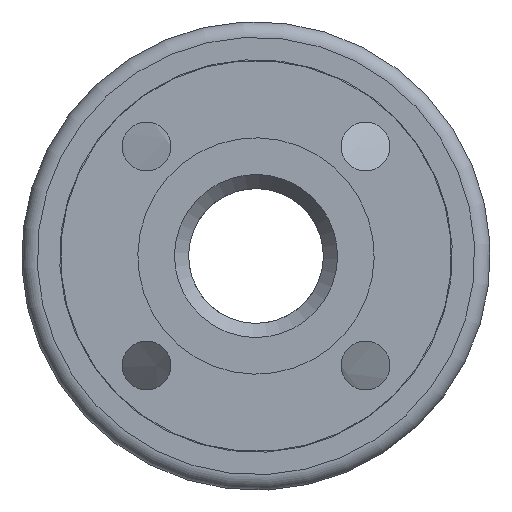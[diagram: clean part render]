
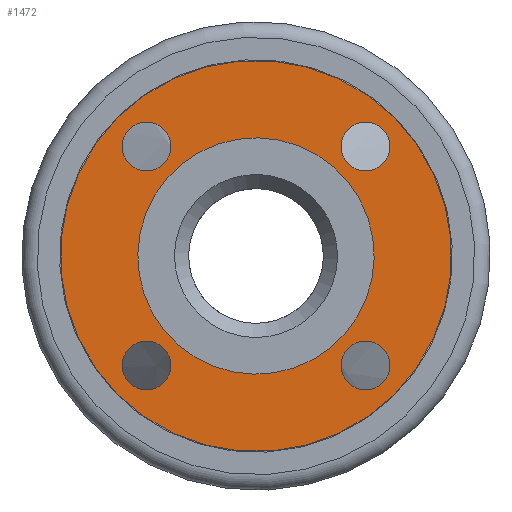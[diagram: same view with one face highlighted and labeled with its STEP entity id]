
A CAD part, front view. The second image highlights one B-rep face of the part: STEP entity #1472.
In plain terms, the highlighted planar face has unit normal (0, -1, 0).
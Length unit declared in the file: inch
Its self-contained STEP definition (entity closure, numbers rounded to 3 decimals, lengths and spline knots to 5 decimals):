
#59=PLANE('',#1614);
#133=FACE_BOUND('',#410,.T.);
#134=FACE_BOUND('',#411,.T.);
#135=FACE_BOUND('',#412,.T.);
#136=FACE_BOUND('',#413,.T.);
#137=FACE_BOUND('',#414,.T.);
#266=FACE_OUTER_BOUND('',#409,.T.);
#409=EDGE_LOOP('',(#1074));
#410=EDGE_LOOP('',(#1075));
#411=EDGE_LOOP('',(#1076));
#412=EDGE_LOOP('',(#1077));
#413=EDGE_LOOP('',(#1078));
#414=EDGE_LOOP('',(#1079));
#662=CIRCLE('',#1615,3.);
#663=CIRCLE('',#1616,0.375);
#664=CIRCLE('',#1617,0.375);
#665=CIRCLE('',#1618,0.375);
#666=CIRCLE('',#1619,0.375);
#667=CIRCLE('',#1620,1.8125);
#795=VERTEX_POINT('',#2407);
#796=VERTEX_POINT('',#2409);
#797=VERTEX_POINT('',#2411);
#798=VERTEX_POINT('',#2413);
#799=VERTEX_POINT('',#2415);
#800=VERTEX_POINT('',#2417);
#928=EDGE_CURVE('',#795,#795,#662,.T.);
#929=EDGE_CURVE('',#796,#796,#663,.T.);
#930=EDGE_CURVE('',#797,#797,#664,.T.);
#931=EDGE_CURVE('',#798,#798,#665,.T.);
#932=EDGE_CURVE('',#799,#799,#666,.T.);
#933=EDGE_CURVE('',#800,#800,#667,.T.);
#1074=ORIENTED_EDGE('',*,*,#928,.T.);
#1075=ORIENTED_EDGE('',*,*,#929,.T.);
#1076=ORIENTED_EDGE('',*,*,#930,.T.);
#1077=ORIENTED_EDGE('',*,*,#931,.T.);
#1078=ORIENTED_EDGE('',*,*,#932,.T.);
#1079=ORIENTED_EDGE('',*,*,#933,.F.);
#1472=ADVANCED_FACE('',(#266,#133,#134,#135,#136,#137),#59,.T.);
#1614=AXIS2_PLACEMENT_3D('',#2406,#1899,#1900);
#1615=AXIS2_PLACEMENT_3D('',#2408,#1901,#1902);
#1616=AXIS2_PLACEMENT_3D('',#2410,#1903,#1904);
#1617=AXIS2_PLACEMENT_3D('',#2412,#1905,#1906);
#1618=AXIS2_PLACEMENT_3D('',#2414,#1907,#1908);
#1619=AXIS2_PLACEMENT_3D('',#2416,#1909,#1910);
#1620=AXIS2_PLACEMENT_3D('',#2418,#1911,#1912);
#1899=DIRECTION('center_axis',(0.,-1.,0.));
#1900=DIRECTION('ref_axis',(-0.707,0.,0.707));
#1901=DIRECTION('center_axis',(0.,-1.,0.));
#1902=DIRECTION('ref_axis',(-0.707,0.,0.707));
#1903=DIRECTION('center_axis',(0.,1.,0.));
#1904=DIRECTION('ref_axis',(-0.707,0.,-0.707));
#1905=DIRECTION('center_axis',(0.,1.,0.));
#1906=DIRECTION('ref_axis',(0.707,0.,-0.707));
#1907=DIRECTION('center_axis',(0.,1.,0.));
#1908=DIRECTION('ref_axis',(0.707,0.,0.707));
#1909=DIRECTION('center_axis',(0.,1.,0.));
#1910=DIRECTION('ref_axis',(-0.707,0.,0.707));
#1911=DIRECTION('center_axis',(0.,-1.,0.));
#1912=DIRECTION('ref_axis',(-0.629,0.,0.778));
#2406=CARTESIAN_POINT('Origin',(0.,0.375,0.));
#2407=CARTESIAN_POINT('',(2.12132,0.375,-2.12132));
#2408=CARTESIAN_POINT('Origin',(0.,0.375,0.));
#2409=CARTESIAN_POINT('',(1.41421,0.375,-1.94454));
#2410=CARTESIAN_POINT('Origin',(1.67938,0.375,-1.67938));
#2411=CARTESIAN_POINT('',(1.94454,0.375,1.41421));
#2412=CARTESIAN_POINT('Origin',(1.67938,0.375,1.67938));
#2413=CARTESIAN_POINT('',(-1.41421,0.375,1.94454));
#2414=CARTESIAN_POINT('Origin',(-1.67938,0.375,1.67938));
#2415=CARTESIAN_POINT('',(-1.94454,0.375,-1.41421));
#2416=CARTESIAN_POINT('Origin',(-1.67938,0.375,-1.67938));
#2417=CARTESIAN_POINT('',(1.13964,0.375,-1.40939));
#2418=CARTESIAN_POINT('Origin',(0.,0.375,0.));
